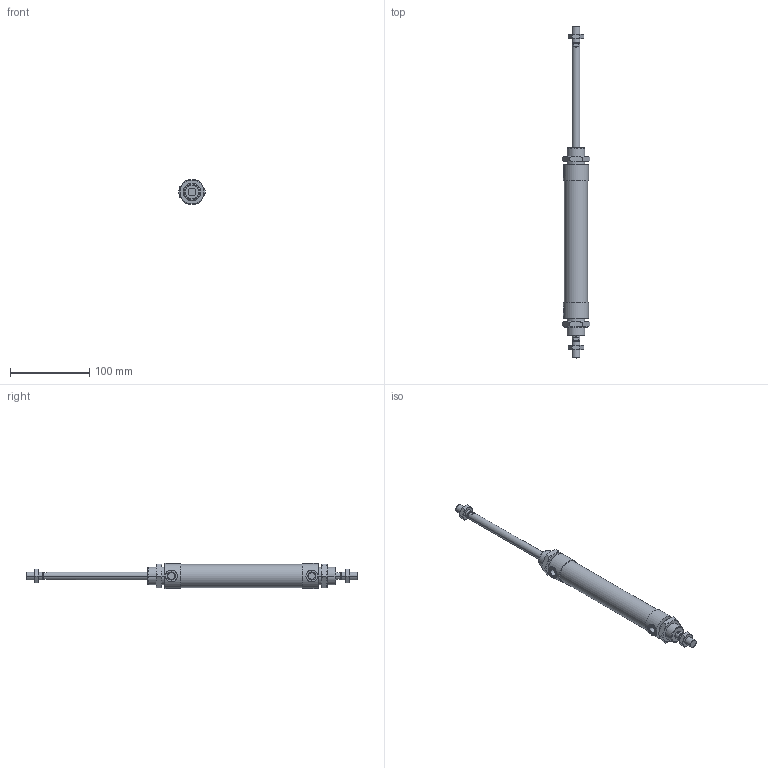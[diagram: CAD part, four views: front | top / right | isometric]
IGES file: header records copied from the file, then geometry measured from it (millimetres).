
Global section: file name: No Iges File Name specified; native system: AutoDesk Inventor R10; preprocessor: AutoDesk Inventor Iges Exporter R10; author: No Author specified; organization: No Organization specified; date: 20060105.143624; units: millimetre
Bounding box: 34.64 x 418 x 31.5 mm (x, y, z)
Volume: 170396.8 mm3; surface area: 49496.2 mm2
Topology: 6 solids, 6 shells, 185 faces, 397 edges, 232 vertices
Faces by surface type: cone 68, plane 62, cylinder 21, bspline 20, revolution 14
Full cylindrical faces by diameter (mm): 29 x1, 31.5 x2
